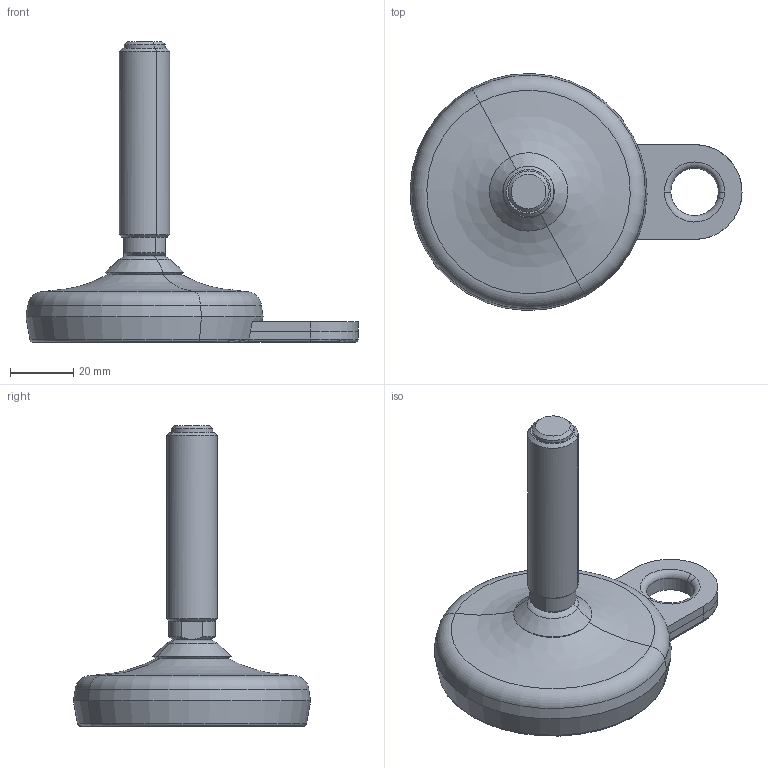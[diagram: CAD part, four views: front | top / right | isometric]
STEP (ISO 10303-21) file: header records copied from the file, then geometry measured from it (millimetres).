
FILE_DESCRIPTION(('STEP AP214'),'1');
FILE_NAME('P93501','2017-02-15T10:23:57',('dentellad'),(' '),'Spatial InterOp 3D',' ',' ');
FILE_SCHEMA(('automotive_design'));
Length unit declared in the file: millimetre
Products named in the file (5): 1; 2; 3; 4; 5
Bounding box: 104.99 x 74.98 x 95 mm (x, y, z)
Volume: 92501.6 mm3; surface area: 37913.4 mm2
Topology: 5 solids, 5 shells, 135 faces, 290 edges, 177 vertices
Faces by surface type: cone 36, cylinder 35, plane 34, torus 24, revolution 6
Entity records: 6440 total; most frequent: CARTESIAN_POINT 791, DIRECTION 723, ORIENTED_EDGE 580, STYLED_ITEM 417, PRESENTATION_STYLE_ASSIGNMENT 417, COLOUR_RGB 417, AXIS2_PLACEMENT_3D 313, EDGE_CURVE 290
